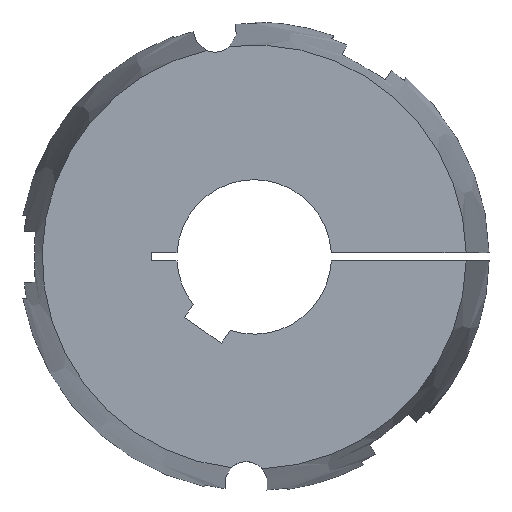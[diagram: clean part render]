
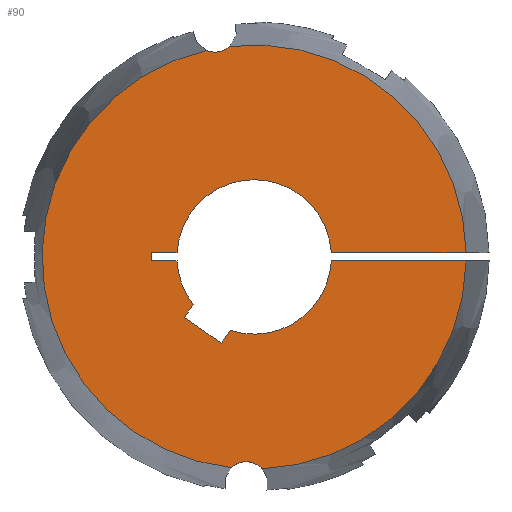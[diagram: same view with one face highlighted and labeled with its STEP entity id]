
A CAD part, left-side view. The second image highlights one B-rep face of the part: STEP entity #90.
In plain terms, the highlighted planar face has unit normal (-1, 0, 0).
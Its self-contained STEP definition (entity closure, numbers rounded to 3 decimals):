
#90 = ADVANCED_FACE( '', ( #140 ), #141, .F. );
#140 = FACE_OUTER_BOUND( '', #208, .T. );
#141 = PLANE( '', #209 );
#208 = EDGE_LOOP( '', ( #369, #370, #371, #372, #373, #374, #375, #376, #377, #378, #379, #380, #381, #382, #383, #384 ) );
#209 = AXIS2_PLACEMENT_3D( '', #385, #386, #387 );
#369 = ORIENTED_EDGE( '', *, *, #548, .F. );
#370 = ORIENTED_EDGE( '', *, *, #601, .F. );
#371 = ORIENTED_EDGE( '', *, *, #570, .T. );
#372 = ORIENTED_EDGE( '', *, *, #583, .T. );
#373 = ORIENTED_EDGE( '', *, *, #581, .T. );
#374 = ORIENTED_EDGE( '', *, *, #578, .T. );
#375 = ORIENTED_EDGE( '', *, *, #587, .T. );
#376 = ORIENTED_EDGE( '', *, *, #602, .T. );
#377 = ORIENTED_EDGE( '', *, *, #603, .T. );
#378 = ORIENTED_EDGE( '', *, *, #604, .T. );
#379 = ORIENTED_EDGE( '', *, *, #605, .T. );
#380 = ORIENTED_EDGE( '', *, *, #606, .T. );
#381 = ORIENTED_EDGE( '', *, *, #572, .T. );
#382 = ORIENTED_EDGE( '', *, *, #607, .F. );
#383 = ORIENTED_EDGE( '', *, *, #551, .F. );
#384 = ORIENTED_EDGE( '', *, *, #608, .F. );
#385 = CARTESIAN_POINT( '', ( -102., 0., 0. ) );
#386 = DIRECTION( '', ( 1., 0., 0. ) );
#387 = DIRECTION( '', ( 0., 1., 0. ) );
#548 = EDGE_CURVE( '', #649, #651, #652, .F. );
#551 = EDGE_CURVE( '', #655, #657, #658, .F. );
#570 = EDGE_CURVE( '', #693, #691, #694, .T. );
#572 = EDGE_CURVE( '', #696, #697, #698, .T. );
#578 = EDGE_CURVE( '', #709, #707, #710, .T. );
#581 = EDGE_CURVE( '', #714, #709, #715, .T. );
#583 = EDGE_CURVE( '', #691, #714, #717, .T. );
#587 = EDGE_CURVE( '', #707, #721, #723, .T. );
#601 = EDGE_CURVE( '', #693, #649, #745, .T. );
#602 = EDGE_CURVE( '', #721, #746, #747, .T. );
#603 = EDGE_CURVE( '', #746, #748, #749, .T. );
#604 = EDGE_CURVE( '', #748, #750, #751, .T. );
#605 = EDGE_CURVE( '', #750, #752, #753, .T. );
#606 = EDGE_CURVE( '', #752, #696, #754, .T. );
#607 = EDGE_CURVE( '', #657, #697, #755, .T. );
#608 = EDGE_CURVE( '', #651, #655, #756, .T. );
#649 = VERTEX_POINT( '', #815 );
#651 = VERTEX_POINT( '', #828 );
#652 = CIRCLE( '', #829, 6.75 );
#655 = VERTEX_POINT( '', #843 );
#657 = VERTEX_POINT( '', #856 );
#658 = CIRCLE( '', #857, 6.75 );
#691 = VERTEX_POINT( '', #924 );
#693 = VERTEX_POINT( '', #927 );
#694 = LINE( '', #928, #929 );
#696 = VERTEX_POINT( '', #937 );
#697 = VERTEX_POINT( '', #938 );
#698 = LINE( '', #939, #940 );
#707 = VERTEX_POINT( '', #958 );
#709 = VERTEX_POINT( '', #961 );
#710 = LINE( '', #962, #963 );
#714 = VERTEX_POINT( '', #969 );
#715 = LINE( '', #970, #971 );
#717 = CIRCLE( '', #974, 24. );
#721 = VERTEX_POINT( '', #979 );
#723 = LINE( '', #982, #983 );
#745 = CIRCLE( '', #1008, 65.867 );
#746 = VERTEX_POINT( '', #1009 );
#747 = CIRCLE( '', #1010, 24. );
#748 = VERTEX_POINT( '', #1011 );
#749 = LINE( '', #1012, #1013 );
#750 = VERTEX_POINT( '', #1014 );
#751 = LINE( '', #1015, #1016 );
#752 = VERTEX_POINT( '', #1017 );
#753 = LINE( '', #1018, #1019 );
#754 = CIRCLE( '', #1020, 24. );
#755 = CIRCLE( '', #1021, 65.867 );
#756 = CIRCLE( '', #1022, 65.867 );
#815 = CARTESIAN_POINT( '', ( -102., -2.538, -65.819 ) );
#828 = CARTESIAN_POINT( '', ( -102., 7.121, -65.481 ) );
#829 = AXIS2_PLACEMENT_3D( '', #1188, #1189, #1190 );
#843 = CARTESIAN_POINT( '', ( -102., 14.891, 64.162 ) );
#856 = CARTESIAN_POINT( '', ( -102., 7.611, 65.426 ) );
#857 = AXIS2_PLACEMENT_3D( '', #1191, #1192, #1193 );
#924 = CARTESIAN_POINT( '', ( -102., -23.967, -1.25 ) );
#927 = CARTESIAN_POINT( '', ( -102., -65.856, -1.25 ) );
#928 = CARTESIAN_POINT( '', ( -102., -73., -1.25 ) );
#929 = VECTOR( '', #1223, 1000. );
#937 = CARTESIAN_POINT( '', ( -102., -23.967, 1.25 ) );
#938 = CARTESIAN_POINT( '', ( -102., -65.856, 1.25 ) );
#939 = CARTESIAN_POINT( '', ( -102., 0., 1.25 ) );
#940 = VECTOR( '', #1224, 1000. );
#958 = CARTESIAN_POINT( '', ( -102., 21.679, -18.757 ) );
#961 = CARTESIAN_POINT( '', ( -102., 10.211, -26.787 ) );
#962 = CARTESIAN_POINT( '', ( -102., 10.211, -26.787 ) );
#963 = VECTOR( '', #1229, 1000. );
#969 = CARTESIAN_POINT( '', ( -102., 7.433, -22.82 ) );
#970 = CARTESIAN_POINT( '', ( -102., 7.433, -22.82 ) );
#971 = VECTOR( '', #1232, 1000. );
#974 = AXIS2_PLACEMENT_3D( '', #1234, #1235, #1236 );
#979 = CARTESIAN_POINT( '', ( -102., 18.901, -14.79 ) );
#982 = CARTESIAN_POINT( '', ( -102., 21.679, -18.757 ) );
#983 = VECTOR( '', #1242, 1000. );
#1008 = AXIS2_PLACEMENT_3D( '', #1276, #1277, #1278 );
#1009 = CARTESIAN_POINT( '', ( -102., 23.967, -1.25 ) );
#1010 = AXIS2_PLACEMENT_3D( '', #1279, #1280, #1281 );
#1011 = CARTESIAN_POINT( '', ( -102., 32., -1.25 ) );
#1012 = CARTESIAN_POINT( '', ( -102., 0., -1.25 ) );
#1013 = VECTOR( '', #1282, 1000. );
#1014 = CARTESIAN_POINT( '', ( -102., 32., 1.25 ) );
#1015 = CARTESIAN_POINT( '', ( -102., 32., -1.25 ) );
#1016 = VECTOR( '', #1283, 1000. );
#1017 = CARTESIAN_POINT( '', ( -102., 23.967, 1.25 ) );
#1018 = CARTESIAN_POINT( '', ( -102., 32., 1.25 ) );
#1019 = VECTOR( '', #1284, 1000. );
#1020 = AXIS2_PLACEMENT_3D( '', #1285, #1286, #1287 );
#1021 = AXIS2_PLACEMENT_3D( '', #1288, #1289, #1290 );
#1022 = AXIS2_PLACEMENT_3D( '', #1291, #1292, #1293 );
#1188 = CARTESIAN_POINT( '', ( -102., 2.456, -70.36 ) );
#1189 = DIRECTION( '', ( 1., 0., 0. ) );
#1190 = DIRECTION( '', ( 0., 1., 0. ) );
#1191 = CARTESIAN_POINT( '', ( -102., 12.218, 70.36 ) );
#1192 = DIRECTION( '', ( 1., 0., 0. ) );
#1193 = DIRECTION( '', ( 0., 1., 0. ) );
#1223 = DIRECTION( '', ( 0., 1., 0. ) );
#1224 = DIRECTION( '', ( 0., -1., 0. ) );
#1229 = DIRECTION( '', ( 0., 0.819, 0.574 ) );
#1232 = DIRECTION( '', ( 0., 0.574, -0.819 ) );
#1234 = CARTESIAN_POINT( '', ( -102., 0., 0. ) );
#1235 = DIRECTION( '', ( 1., 0., 0. ) );
#1236 = DIRECTION( '', ( 0., 0., -1. ) );
#1242 = DIRECTION( '', ( 0., -0.574, 0.819 ) );
#1276 = CARTESIAN_POINT( '', ( -102., 0., 0. ) );
#1277 = DIRECTION( '', ( 1., 0., 0. ) );
#1278 = DIRECTION( '', ( 0., 1., 0. ) );
#1279 = CARTESIAN_POINT( '', ( -102., 0., 0. ) );
#1280 = DIRECTION( '', ( 1., 0., 0. ) );
#1281 = DIRECTION( '', ( 0., 0., -1. ) );
#1282 = DIRECTION( '', ( 0., 1., 0. ) );
#1283 = DIRECTION( '', ( 0., 0., 1. ) );
#1284 = DIRECTION( '', ( 0., -1., 0. ) );
#1285 = CARTESIAN_POINT( '', ( -102., 0., 0. ) );
#1286 = DIRECTION( '', ( 1., 0., 0. ) );
#1287 = DIRECTION( '', ( 0., 0., -1. ) );
#1288 = CARTESIAN_POINT( '', ( -102., 0., 0. ) );
#1289 = DIRECTION( '', ( 1., 0., 0. ) );
#1290 = DIRECTION( '', ( 0., 1., 0. ) );
#1291 = CARTESIAN_POINT( '', ( -102., 0., 0. ) );
#1292 = DIRECTION( '', ( 1., 0., 0. ) );
#1293 = DIRECTION( '', ( 0., 1., 0. ) );
